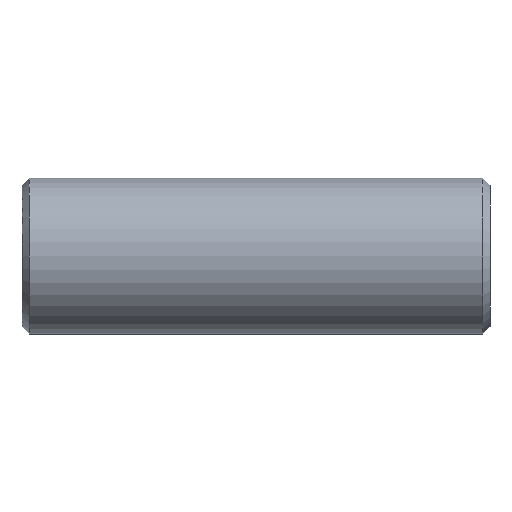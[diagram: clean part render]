
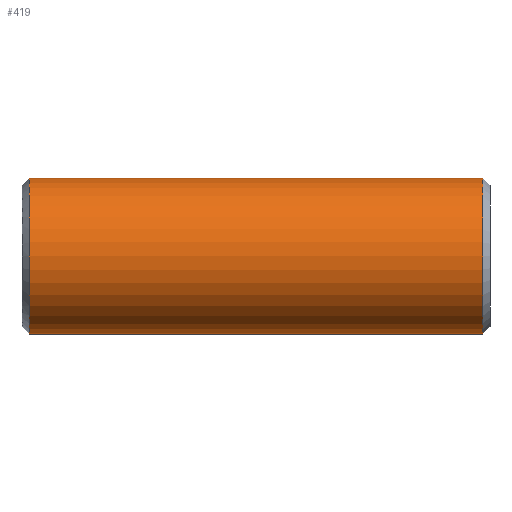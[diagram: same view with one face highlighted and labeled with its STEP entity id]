
A CAD part, front view. The second image highlights one B-rep face of the part: STEP entity #419.
In plain terms, the highlighted cylindrical face has radius 11 mm (diameter 22 mm), a partial arc.
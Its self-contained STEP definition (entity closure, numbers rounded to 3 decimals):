
#231=CARTESIAN_POINT('Vertex',(1.,0.,-11.)) ;
#238=CARTESIAN_POINT('Vertex',(1.,0.,11.)) ;
#267=CARTESIAN_POINT('Axis2P3D Location',(1.,0.,0.)) ;
#271=CARTESIAN_POINT('Vertex',(1.,-11.,0.)) ;
#274=CARTESIAN_POINT('Axis2P3D Location',(1.,0.,0.)) ;
#359=CARTESIAN_POINT('Line Origine',(66.,0.,11.)) ;
#363=CARTESIAN_POINT('Vertex',(65.,0.,11.)) ;
#377=CARTESIAN_POINT('Vertex',(65.,0.,-11.)) ;
#380=CARTESIAN_POINT('Line Origine',(66.,0.,-11.)) ;
#394=CARTESIAN_POINT('Axis2P3D Location',(66.,0.,0.)) ;
#399=CARTESIAN_POINT('Axis2P3D Location',(65.,0.,0.)) ;
#403=CARTESIAN_POINT('Vertex',(65.,-11.,0.)) ;
#406=CARTESIAN_POINT('Axis2P3D Location',(65.,0.,0.)) ;
#268=DIRECTION('Axis2P3D Direction',(1.,0.,-0.)) ;
#275=DIRECTION('Axis2P3D Direction',(1.,0.,-0.)) ;
#360=DIRECTION('Vector Direction',(-1.,0.,0.)) ;
#381=DIRECTION('Vector Direction',(-1.,0.,0.)) ;
#395=DIRECTION('Axis2P3D Direction',(-1.,-0.,-0.)) ;
#396=DIRECTION('Axis2P3D XDirection',(0.,0.,-1.)) ;
#400=DIRECTION('Axis2P3D Direction',(-1.,-0.,-0.)) ;
#407=DIRECTION('Axis2P3D Direction',(-1.,-0.,-0.)) ;
#269=AXIS2_PLACEMENT_3D('Circle Axis2P3D',#267,#268,$) ;
#276=AXIS2_PLACEMENT_3D('Circle Axis2P3D',#274,#275,$) ;
#397=AXIS2_PLACEMENT_3D('Cylinder Axis2P3D',#394,#395,#396) ;
#401=AXIS2_PLACEMENT_3D('Circle Axis2P3D',#399,#400,$) ;
#408=AXIS2_PLACEMENT_3D('Circle Axis2P3D',#406,#407,$) ;
#412=ORIENTED_EDGE('',*,*,#384,.T.) ;
#413=ORIENTED_EDGE('',*,*,#405,.F.) ;
#414=ORIENTED_EDGE('',*,*,#410,.F.) ;
#415=ORIENTED_EDGE('',*,*,#365,.T.) ;
#416=ORIENTED_EDGE('',*,*,#278,.T.) ;
#417=ORIENTED_EDGE('',*,*,#273,.T.) ;
#361=VECTOR('Line Direction',#360,1.) ;
#382=VECTOR('Line Direction',#381,1.) ;
#419=ADVANCED_FACE('352-16X66',(#418),#398,.T.) ;
#270=CIRCLE('generated circle',#269,11.) ;
#277=CIRCLE('generated circle',#276,11.) ;
#402=CIRCLE('generated circle',#401,11.) ;
#409=CIRCLE('generated circle',#408,11.) ;
#398=CYLINDRICAL_SURFACE('generated cylinder',#397,11.) ;
#273=EDGE_CURVE('',#272,#232,#270,.T.) ;
#278=EDGE_CURVE('',#239,#272,#277,.T.) ;
#365=EDGE_CURVE('',#364,#239,#362,.T.) ;
#384=EDGE_CURVE('',#232,#378,#383,.F.) ;
#405=EDGE_CURVE('',#404,#378,#402,.F.) ;
#410=EDGE_CURVE('',#364,#404,#409,.F.) ;
#411=EDGE_LOOP('',(#412,#413,#414,#415,#416,#417)) ;
#418=FACE_OUTER_BOUND('',#411,.T.) ;
#362=LINE('Line',#359,#361) ;
#383=LINE('Line',#380,#382) ;
#232=VERTEX_POINT('',#231) ;
#239=VERTEX_POINT('',#238) ;
#272=VERTEX_POINT('',#271) ;
#364=VERTEX_POINT('',#363) ;
#378=VERTEX_POINT('',#377) ;
#404=VERTEX_POINT('',#403) ;
